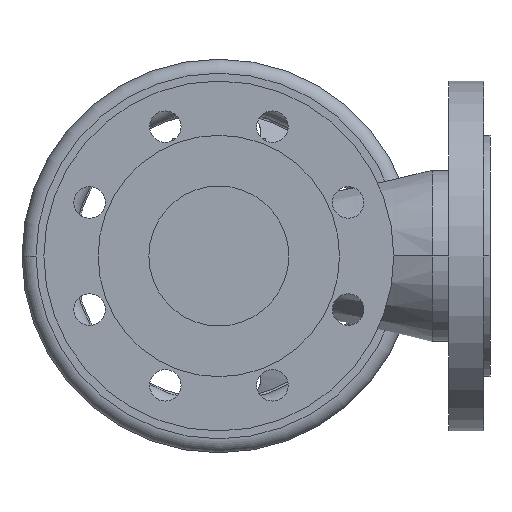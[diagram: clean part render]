
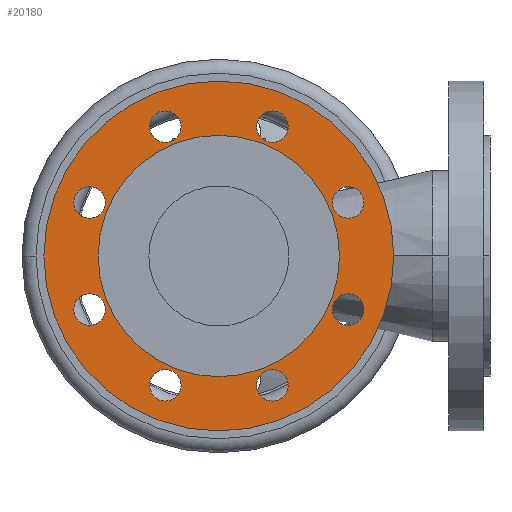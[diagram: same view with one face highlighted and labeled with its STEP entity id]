
A CAD part, front view. The second image highlights one B-rep face of the part: STEP entity #20180.
In plain terms, the highlighted planar face has unit normal (0, -1, 0).
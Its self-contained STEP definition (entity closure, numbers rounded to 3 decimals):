
#610=CARTESIAN_POINT('',(69.,3.5,0.));
#620=VERTEX_POINT('',#610);
#780=CARTESIAN_POINT('',(-69.,3.5,0.));
#790=VERTEX_POINT('',#780);
#820=CARTESIAN_POINT('',(0.,3.5,0.));
#830=DIRECTION('',(0.,-1.,0.));
#840=DIRECTION('',(-1.,0.,0.));
#850=AXIS2_PLACEMENT_3D('',#820,#830,#840);
#860=CIRCLE('',#850,69.);
#870=EDGE_CURVE('',#620,#790,#860,.T.);
#6470=CARTESIAN_POINT('',(100.,3.5,0.));
#6480=VERTEX_POINT('',#6470);
#6510=CARTESIAN_POINT('',(0.,3.5,0.));
#6520=DIRECTION('',(0.,1.,0.));
#6530=DIRECTION('',(1.,0.,0.));
#6540=AXIS2_PLACEMENT_3D('',#6510,#6520,#6530);
#6550=CIRCLE('',#6540,100.);
#6560=CARTESIAN_POINT('',(-100.,3.5,0.));
#6570=VERTEX_POINT('',#6560);
#6580=EDGE_CURVE('',#6570,#6480,#6550,.T.);
#6960=CARTESIAN_POINT('',(82.91,3.5,-30.615));
#6970=VERTEX_POINT('',#6960);
#7000=CARTESIAN_POINT('',(73.91,3.5,-30.615));
#7010=DIRECTION('',(0.,1.,0.));
#7020=DIRECTION('',(1.,0.,0.));
#7030=AXIS2_PLACEMENT_3D('',#7000,#7010,#7020);
#7040=CIRCLE('',#7030,9.);
#7050=CARTESIAN_POINT('',(64.91,3.5,-30.615));
#7060=VERTEX_POINT('',#7050);
#7070=EDGE_CURVE('',#6970,#7060,#7040,.T.);
#7450=CARTESIAN_POINT('',(82.91,3.5,30.615));
#7460=VERTEX_POINT('',#7450);
#7490=CARTESIAN_POINT('',(73.91,3.5,30.615));
#7500=DIRECTION('',(0.,1.,0.));
#7510=DIRECTION('',(1.,0.,0.));
#7520=AXIS2_PLACEMENT_3D('',#7490,#7500,#7510);
#7530=CIRCLE('',#7520,9.);
#7540=CARTESIAN_POINT('',(64.91,3.5,30.615));
#7550=VERTEX_POINT('',#7540);
#7560=EDGE_CURVE('',#7460,#7550,#7530,.T.);
#7940=CARTESIAN_POINT('',(21.615,3.5,-73.91));
#7950=VERTEX_POINT('',#7940);
#8110=CARTESIAN_POINT('',(39.615,3.5,-73.91));
#8120=VERTEX_POINT('',#8110);
#8150=CARTESIAN_POINT('',(30.615,3.5,-73.91));
#8160=DIRECTION('',(0.,1.,0.));
#8170=DIRECTION('',(1.,0.,0.));
#8180=AXIS2_PLACEMENT_3D('',#8150,#8160,#8170);
#8190=CIRCLE('',#8180,9.);
#8200=EDGE_CURVE('',#8120,#7950,#8190,.T.);
#8430=CARTESIAN_POINT('',(39.615,3.5,73.91));
#8440=VERTEX_POINT('',#8430);
#8600=CARTESIAN_POINT('',(21.615,3.5,73.91));
#8610=VERTEX_POINT('',#8600);
#8640=CARTESIAN_POINT('',(30.615,3.5,73.91));
#8650=DIRECTION('',(0.,1.,0.));
#8660=DIRECTION('',(1.,0.,0.));
#8670=AXIS2_PLACEMENT_3D('',#8640,#8650,#8660);
#8680=CIRCLE('',#8670,9.);
#8690=EDGE_CURVE('',#8610,#8440,#8680,.T.);
#8920=CARTESIAN_POINT('',(-39.615,3.5,-73.91));
#8930=VERTEX_POINT('',#8920);
#9090=CARTESIAN_POINT('',(-21.615,3.5,-73.91));
#9100=VERTEX_POINT('',#9090);
#9130=CARTESIAN_POINT('',(-30.615,3.5,-73.91));
#9140=DIRECTION('',(0.,1.,0.));
#9150=DIRECTION('',(1.,0.,0.));
#9160=AXIS2_PLACEMENT_3D('',#9130,#9140,#9150);
#9170=CIRCLE('',#9160,9.);
#9180=EDGE_CURVE('',#9100,#8930,#9170,.T.);
#9410=CARTESIAN_POINT('',(-39.615,3.5,73.91));
#9420=VERTEX_POINT('',#9410);
#9450=CARTESIAN_POINT('',(-30.615,3.5,73.91));
#9460=DIRECTION('',(0.,1.,0.));
#9470=DIRECTION('',(1.,0.,0.));
#9480=AXIS2_PLACEMENT_3D('',#9450,#9460,#9470);
#9490=CIRCLE('',#9480,9.);
#9500=CARTESIAN_POINT('',(-21.615,3.5,73.91));
#9510=VERTEX_POINT('',#9500);
#9520=EDGE_CURVE('',#9420,#9510,#9490,.T.);
#9900=CARTESIAN_POINT('',(-82.91,3.5,-30.615));
#9910=VERTEX_POINT('',#9900);
#9940=CARTESIAN_POINT('',(-73.91,3.5,-30.615));
#9950=DIRECTION('',(0.,1.,0.));
#9960=DIRECTION('',(1.,0.,0.));
#9970=AXIS2_PLACEMENT_3D('',#9940,#9950,#9960);
#9980=CIRCLE('',#9970,9.);
#9990=CARTESIAN_POINT('',(-64.91,3.5,-30.615));
#10000=VERTEX_POINT('',#9990);
#10010=EDGE_CURVE('',#9910,#10000,#9980,.T.);
#10390=CARTESIAN_POINT('',(-82.91,3.5,30.615));
#10400=VERTEX_POINT('',#10390);
#10430=CARTESIAN_POINT('',(-73.91,3.5,30.615));
#10440=DIRECTION('',(0.,1.,0.));
#10450=DIRECTION('',(1.,0.,0.));
#10460=AXIS2_PLACEMENT_3D('',#10430,#10440,#10450);
#10470=CIRCLE('',#10460,9.);
#10480=CARTESIAN_POINT('',(-64.91,3.5,30.615));
#10490=VERTEX_POINT('',#10480);
#10500=EDGE_CURVE('',#10400,#10490,#10470,.T.);
#19630=CARTESIAN_POINT('',(0.,3.5,0.));
#19640=DIRECTION('',(0.,1.,0.));
#19650=DIRECTION('',(0.,0.,1.));
#19660=AXIS2_PLACEMENT_3D('',#19630,#19640,#19650);
#19670=PLANE('',#19660);
#19680=ORIENTED_EDGE('',*,*,#10500,.T.);
#19690=EDGE_CURVE('',#10490,#10400,#10470,.T.);
#19700=ORIENTED_EDGE('',*,*,#19690,.T.);
#19710=EDGE_LOOP('',(#19700,#19680));
#19720=FACE_BOUND('',#19710,.T.);
#19730=EDGE_CURVE('',#10000,#9910,#9980,.T.);
#19740=ORIENTED_EDGE('',*,*,#19730,.T.);
#19750=ORIENTED_EDGE('',*,*,#10010,.T.);
#19760=EDGE_LOOP('',(#19750,#19740));
#19770=FACE_BOUND('',#19760,.T.);
#19780=ORIENTED_EDGE('',*,*,#9520,.T.);
#19790=EDGE_CURVE('',#9510,#9420,#9490,.T.);
#19800=ORIENTED_EDGE('',*,*,#19790,.T.);
#19810=EDGE_LOOP('',(#19800,#19780));
#19820=FACE_BOUND('',#19810,.T.);
#19830=EDGE_CURVE('',#8930,#9100,#9170,.T.);
#19840=ORIENTED_EDGE('',*,*,#19830,.T.);
#19850=ORIENTED_EDGE('',*,*,#9180,.T.);
#19860=EDGE_LOOP('',(#19850,#19840));
#19870=FACE_BOUND('',#19860,.T.);
#19880=EDGE_CURVE('',#8440,#8610,#8680,.T.);
#19890=ORIENTED_EDGE('',*,*,#19880,.T.);
#19900=ORIENTED_EDGE('',*,*,#8690,.T.);
#19910=EDGE_LOOP('',(#19900,#19890));
#19920=FACE_BOUND('',#19910,.T.);
#19930=EDGE_CURVE('',#7950,#8120,#8190,.T.);
#19940=ORIENTED_EDGE('',*,*,#19930,.T.);
#19950=ORIENTED_EDGE('',*,*,#8200,.T.);
#19960=EDGE_LOOP('',(#19950,#19940));
#19970=FACE_BOUND('',#19960,.T.);
#19980=EDGE_CURVE('',#7550,#7460,#7530,.T.);
#19990=ORIENTED_EDGE('',*,*,#19980,.T.);
#20000=ORIENTED_EDGE('',*,*,#7560,.T.);
#20010=EDGE_LOOP('',(#20000,#19990));
#20020=FACE_BOUND('',#20010,.T.);
#20030=EDGE_CURVE('',#7060,#6970,#7040,.T.);
#20040=ORIENTED_EDGE('',*,*,#20030,.T.);
#20050=ORIENTED_EDGE('',*,*,#7070,.T.);
#20060=EDGE_LOOP('',(#20050,#20040));
#20070=FACE_BOUND('',#20060,.T.);
#20080=EDGE_CURVE('',#6480,#6570,#6550,.T.);
#20090=ORIENTED_EDGE('',*,*,#20080,.F.);
#20100=ORIENTED_EDGE('',*,*,#6580,.F.);
#20110=EDGE_LOOP('',(#20100,#20090));
#20120=FACE_OUTER_BOUND('',#20110,.T.);
#20130=EDGE_CURVE('',#790,#620,#860,.T.);
#20140=ORIENTED_EDGE('',*,*,#20130,.F.);
#20150=ORIENTED_EDGE('',*,*,#870,.F.);
#20160=EDGE_LOOP('',(#20150,#20140));
#20170=FACE_BOUND('',#20160,.T.);
#20180=ADVANCED_FACE('',(#19720,#19770,#19820,#19870,#19920,#19970,
#20020,#20070,#20120,#20170),#19670,.F.);
